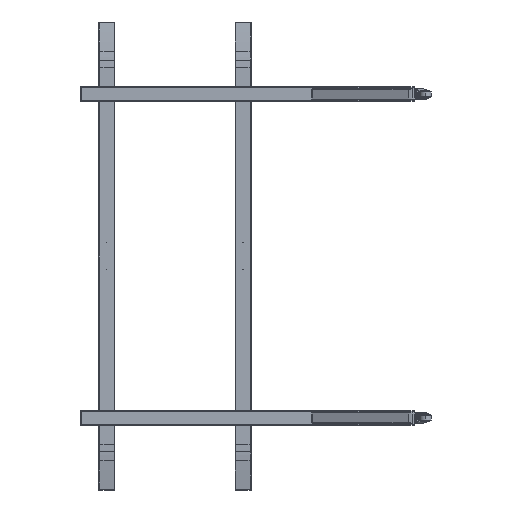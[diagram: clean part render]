
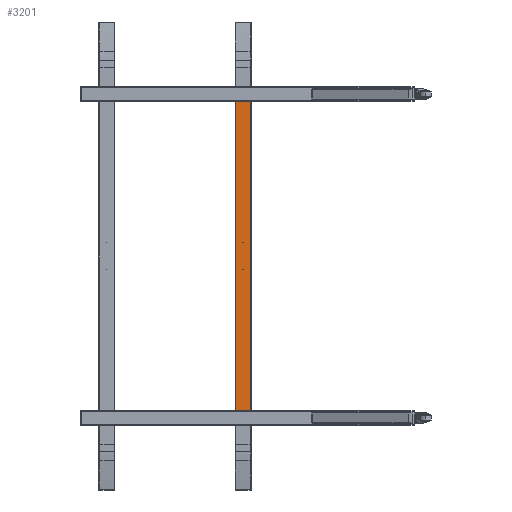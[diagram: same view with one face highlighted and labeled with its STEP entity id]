
A CAD part, left-side view. The second image highlights one B-rep face of the part: STEP entity #3201.
In plain terms, the highlighted planar face has unit normal (-1, 0, 0) as drawn and (0, -1, 0) by its records, which use the part's own axes.
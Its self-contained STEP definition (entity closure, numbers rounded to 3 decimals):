
#294 = CARTESIAN_POINT ( 'NONE',  ( 75., -22., 0. ) ) ;
#1828 = AXIS2_PLACEMENT_3D ( 'NONE', #28077, #42263, #20196 ) ;
#2492 = ORIENTED_EDGE ( 'NONE', *, *, #16623, .T. ) ;
#3045 = CARTESIAN_POINT ( 'NONE',  ( -860., -22., 43. ) ) ;
#3171 = ORIENTED_EDGE ( 'NONE', *, *, #9794, .T. ) ;
#3198 = VECTOR ( 'NONE', #13253, 1000. ) ;
#3201 = ADVANCED_FACE ( 'NONE', ( #16914, #5976, #27395 ), #10144, .T. ) ;
#4195 = DIRECTION ( 'NONE',  ( 0., 0., -1. ) ) ;
#5376 = EDGE_LOOP ( 'NONE', ( #30137, #26338 ) ) ;
#5976 = FACE_BOUND ( 'NONE', #29868, .T. ) ;
#7492 = VERTEX_POINT ( 'NONE', #39749 ) ;
#8684 = VERTEX_POINT ( 'NONE', #12959 ) ;
#8757 = VECTOR ( 'NONE', #34658, 1000. ) ;
#8819 = VECTOR ( 'NONE', #16346, 1000. ) ;
#8886 = LINE ( 'NONE', #19620, #8819 ) ;
#9015 = LINE ( 'NONE', #36728, #13269 ) ;
#9381 = DIRECTION ( 'NONE',  ( 0., 0., -1. ) ) ;
#9525 = CIRCLE ( 'NONE', #34796, 1.65 ) ;
#9780 = LINE ( 'NONE', #31856, #8757 ) ;
#9794 = EDGE_CURVE ( 'NONE', #30031, #38677, #9015, .T. ) ;
#9871 = CARTESIAN_POINT ( 'NONE',  ( -75., -22., 0. ) ) ;
#10144 = PLANE ( 'NONE',  #1828 ) ;
#10719 = DIRECTION ( 'NONE',  ( 0., -1., 0. ) ) ;
#11608 = VERTEX_POINT ( 'NONE', #39779 ) ;
#12239 = EDGE_CURVE ( 'NONE', #30323, #30031, #9780, .T. ) ;
#12933 = EDGE_CURVE ( 'NONE', #8684, #17690, #9525, .T. ) ;
#12959 = CARTESIAN_POINT ( 'NONE',  ( 75., -22., 1.65 ) ) ;
#13253 = DIRECTION ( 'NONE',  ( 0., 0., 1. ) ) ;
#13269 = VECTOR ( 'NONE', #30187, 1000. ) ;
#14397 = CARTESIAN_POINT ( 'NONE',  ( -75., -22., -1.65 ) ) ;
#16346 = DIRECTION ( 'NONE',  ( 1., 0., 0. ) ) ;
#16623 = EDGE_CURVE ( 'NONE', #11608, #30323, #8886, .T. ) ;
#16914 = FACE_BOUND ( 'NONE', #5376, .T. ) ;
#17608 = EDGE_CURVE ( 'NONE', #24857, #7492, #37919, .T. ) ;
#17690 = VERTEX_POINT ( 'NONE', #34974 ) ;
#17845 = AXIS2_PLACEMENT_3D ( 'NONE', #19440, #30340, #9381 ) ;
#18522 = CARTESIAN_POINT ( 'NONE',  ( 75., -22., 0. ) ) ;
#18923 = AXIS2_PLACEMENT_3D ( 'NONE', #9871, #10719, #4195 ) ;
#19440 = CARTESIAN_POINT ( 'NONE',  ( -75., -22., 0. ) ) ;
#19620 = CARTESIAN_POINT ( 'NONE',  ( -860., -22., -43. ) ) ;
#20196 = DIRECTION ( 'NONE',  ( 0., 0., -1. ) ) ;
#24423 = EDGE_CURVE ( 'NONE', #11608, #38677, #26677, .T. ) ;
#24857 = VERTEX_POINT ( 'NONE', #14397 ) ;
#25483 = DIRECTION ( 'NONE',  ( 0., -1., 0. ) ) ;
#25841 = CIRCLE ( 'NONE', #44412, 1.65 ) ;
#26201 = DIRECTION ( 'NONE',  ( 0., -1., 0. ) ) ;
#26338 = ORIENTED_EDGE ( 'NONE', *, *, #12933, .F. ) ;
#26677 = LINE ( 'NONE', #37599, #3198 ) ;
#27395 = FACE_OUTER_BOUND ( 'NONE', #42365, .T. ) ;
#28077 = CARTESIAN_POINT ( 'NONE',  ( -860., -22., 45. ) ) ;
#29868 = EDGE_LOOP ( 'NONE', ( #33455, #44005 ) ) ;
#30031 = VERTEX_POINT ( 'NONE', #39222 ) ;
#30039 = CIRCLE ( 'NONE', #18923, 1.65 ) ;
#30137 = ORIENTED_EDGE ( 'NONE', *, *, #45353, .F. ) ;
#30187 = DIRECTION ( 'NONE',  ( -1., 0., 0. ) ) ;
#30323 = VERTEX_POINT ( 'NONE', #43813 ) ;
#30340 = DIRECTION ( 'NONE',  ( 0., -1., 0. ) ) ;
#30563 = ORIENTED_EDGE ( 'NONE', *, *, #12239, .T. ) ;
#31856 = CARTESIAN_POINT ( 'NONE',  ( 860., -22., -43. ) ) ;
#31916 = ORIENTED_EDGE ( 'NONE', *, *, #24423, .F. ) ;
#32457 = DIRECTION ( 'NONE',  ( 0., 0., -1. ) ) ;
#33455 = ORIENTED_EDGE ( 'NONE', *, *, #17608, .F. ) ;
#34658 = DIRECTION ( 'NONE',  ( 0., 0., 1. ) ) ;
#34796 = AXIS2_PLACEMENT_3D ( 'NONE', #294, #25483, #45961 ) ;
#34974 = CARTESIAN_POINT ( 'NONE',  ( 75., -22., -1.65 ) ) ;
#36728 = CARTESIAN_POINT ( 'NONE',  ( 860., -22., 43. ) ) ;
#37599 = CARTESIAN_POINT ( 'NONE',  ( -860., -22., -43. ) ) ;
#37919 = CIRCLE ( 'NONE', #17845, 1.65 ) ;
#38677 = VERTEX_POINT ( 'NONE', #3045 ) ;
#39222 = CARTESIAN_POINT ( 'NONE',  ( 860., -22., 43. ) ) ;
#39749 = CARTESIAN_POINT ( 'NONE',  ( -75., -22., 1.65 ) ) ;
#39779 = CARTESIAN_POINT ( 'NONE',  ( -860., -22., -43. ) ) ;
#39851 = EDGE_CURVE ( 'NONE', #7492, #24857, #30039, .T. ) ;
#42263 = DIRECTION ( 'NONE',  ( 0., -1., 0. ) ) ;
#42365 = EDGE_LOOP ( 'NONE', ( #30563, #3171, #31916, #2492 ) ) ;
#43813 = CARTESIAN_POINT ( 'NONE',  ( 860., -22., -43. ) ) ;
#44005 = ORIENTED_EDGE ( 'NONE', *, *, #39851, .F. ) ;
#44412 = AXIS2_PLACEMENT_3D ( 'NONE', #18522, #26201, #32457 ) ;
#45353 = EDGE_CURVE ( 'NONE', #17690, #8684, #25841, .T. ) ;
#45961 = DIRECTION ( 'NONE',  ( 0., 0., -1. ) ) ;
